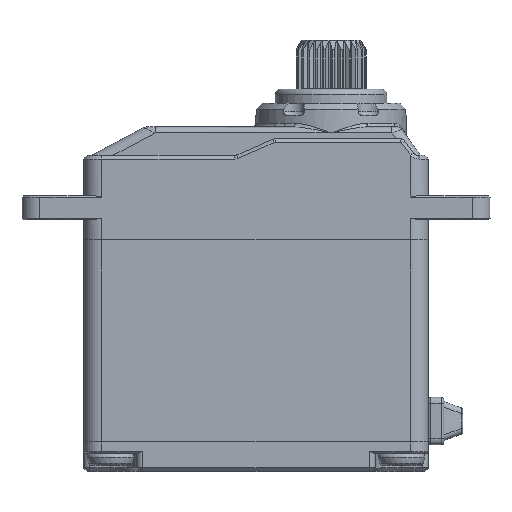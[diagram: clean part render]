
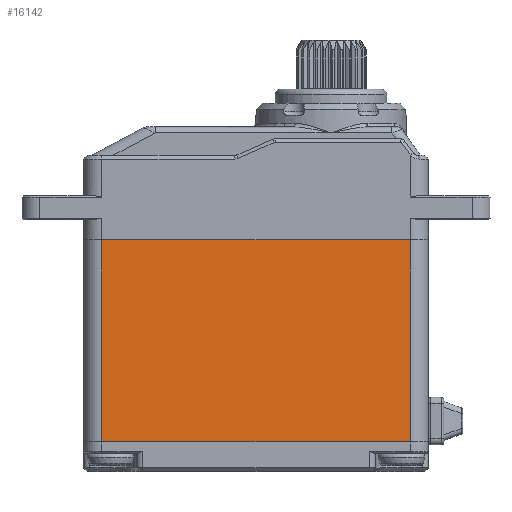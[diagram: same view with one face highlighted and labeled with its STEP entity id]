
A CAD part, top view. The second image highlights one B-rep face of the part: STEP entity #16142.
In plain terms, the highlighted planar face has unit normal (0, 0, 1).
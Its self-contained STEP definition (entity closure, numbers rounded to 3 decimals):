
#4902=DIRECTION('',(1.,0.,0.));
#4903=VECTOR('',#4902,26.);
#4904=CARTESIAN_POINT('',(-13.,-16.99,7.));
#4905=LINE('',#4904,#4903);
#4906=DIRECTION('',(0.,1.,0.));
#4907=VECTOR('',#4906,16.98);
#4908=CARTESIAN_POINT('',(-13.,-16.99,7.));
#4909=LINE('',#4908,#4907);
#4910=DIRECTION('',(1.,0.,0.));
#4911=VECTOR('',#4910,26.);
#4912=CARTESIAN_POINT('',(-13.,-0.01,7.));
#4913=LINE('',#4912,#4911);
#5487=DIRECTION('',(0.,1.,0.));
#5488=VECTOR('',#5487,16.98);
#5489=CARTESIAN_POINT('',(13.,-16.99,7.));
#5490=LINE('',#5489,#5488);
#10418=CARTESIAN_POINT('',(-13.,-0.01,7.));
#10419=CARTESIAN_POINT('',(13.,-0.01,7.));
#10420=VERTEX_POINT('',#10418);
#10421=VERTEX_POINT('',#10419);
#10486=CARTESIAN_POINT('',(-13.,-16.99,7.));
#10487=CARTESIAN_POINT('',(13.,-16.99,7.));
#10488=VERTEX_POINT('',#10486);
#10489=VERTEX_POINT('',#10487);
#16128=CARTESIAN_POINT('',(-14.5,0.,7.));
#16129=DIRECTION('',(0.,0.,1.));
#16130=DIRECTION('',(1.,0.,0.));
#16131=AXIS2_PLACEMENT_3D('',#16128,#16129,#16130);
#16132=PLANE('',#16131);
#16134=ORIENTED_EDGE('',*,*,#16133,.F.);
#16136=ORIENTED_EDGE('',*,*,#16135,.T.);
#16137=ORIENTED_EDGE('',*,*,#15357,.T.);
#16139=ORIENTED_EDGE('',*,*,#16138,.F.);
#16140=EDGE_LOOP('',(#16134,#16136,#16137,#16139));
#16141=FACE_OUTER_BOUND('',#16140,.F.);
#15357=EDGE_CURVE('',#10420,#10421,#4913,.T.);
#16133=EDGE_CURVE('',#10488,#10489,#4905,.T.);
#16135=EDGE_CURVE('',#10488,#10420,#4909,.T.);
#16138=EDGE_CURVE('',#10489,#10421,#5490,.T.);
#16142=ADVANCED_FACE('',(#16141),#16132,.T.);
